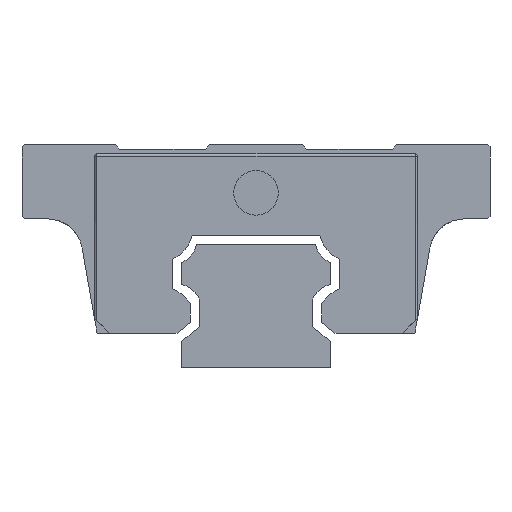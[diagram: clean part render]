
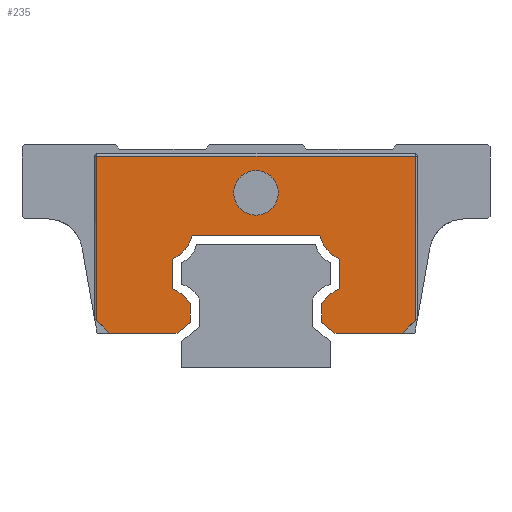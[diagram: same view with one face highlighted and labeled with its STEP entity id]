
A CAD part, left-side view. The second image highlights one B-rep face of the part: STEP entity #235.
In plain terms, the highlighted planar face has unit normal (-1, 0, 0).
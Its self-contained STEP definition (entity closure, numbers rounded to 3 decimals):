
#47=FACE_BOUND('',#560,.T.);
#48=FACE_BOUND('',#561,.T.);
#235=ADVANCED_FACE('',(#47,#48),#373,.T.);
#373=PLANE('',#2506);
#560=EDGE_LOOP('',(#1261));
#561=EDGE_LOOP('',(#1262,#1263,#1264,#1265,#1266,#1267,#1268,#1269,#1270,
#1271,#1272,#1273,#1274,#1275,#1276,#1277,#1278,#1279));
#752=LINE('',#3486,#960);
#758=LINE('',#3502,#966);
#761=LINE('',#3508,#969);
#768=LINE('',#3522,#976);
#769=LINE('',#3532,#977);
#782=LINE('',#3559,#990);
#791=LINE('',#3579,#999);
#794=LINE('',#3585,#1002);
#799=LINE('',#3594,#1007);
#807=LINE('',#3611,#1015);
#814=LINE('',#3626,#1022);
#815=LINE('',#3630,#1023);
#816=LINE('',#3632,#1024);
#817=LINE('',#3634,#1025);
#960=VECTOR('',#2759,1.);
#966=VECTOR('',#2773,1.);
#969=VECTOR('',#2778,1.);
#976=VECTOR('',#2787,1.);
#977=VECTOR('',#2792,1.);
#990=VECTOR('',#2813,1.);
#999=VECTOR('',#2826,1.);
#1002=VECTOR('',#2831,1.);
#1007=VECTOR('',#2838,1.);
#1015=VECTOR('',#2852,1.);
#1022=VECTOR('',#2865,1.);
#1023=VECTOR('',#2870,1.);
#1024=VECTOR('',#2871,1.);
#1025=VECTOR('',#2872,1.);
#1261=ORIENTED_EDGE('',*,*,#2120,.F.);
#1262=ORIENTED_EDGE('',*,*,#2071,.T.);
#1263=ORIENTED_EDGE('',*,*,#2121,.T.);
#1264=ORIENTED_EDGE('',*,*,#2122,.T.);
#1265=ORIENTED_EDGE('',*,*,#2123,.T.);
#1266=ORIENTED_EDGE('',*,*,#2084,.T.);
#1267=ORIENTED_EDGE('',*,*,#2094,.T.);
#1268=ORIENTED_EDGE('',*,*,#2097,.T.);
#1269=ORIENTED_EDGE('',*,*,#2102,.T.);
#1270=ORIENTED_EDGE('',*,*,#2104,.T.);
#1271=ORIENTED_EDGE('',*,*,#2111,.T.);
#1272=ORIENTED_EDGE('',*,*,#2113,.T.);
#1273=ORIENTED_EDGE('',*,*,#2119,.T.);
#1274=ORIENTED_EDGE('',*,*,#2042,.T.);
#1275=ORIENTED_EDGE('',*,*,#2050,.T.);
#1276=ORIENTED_EDGE('',*,*,#2053,.T.);
#1277=ORIENTED_EDGE('',*,*,#2058,.T.);
#1278=ORIENTED_EDGE('',*,*,#2061,.T.);
#1279=ORIENTED_EDGE('',*,*,#2068,.T.);
#1819=VERTEX_POINT('',#3469);
#1820=VERTEX_POINT('',#3471);
#1826=VERTEX_POINT('',#3485);
#1828=VERTEX_POINT('',#3491);
#1832=VERTEX_POINT('',#3501);
#1834=VERTEX_POINT('',#3507);
#1840=VERTEX_POINT('',#3521);
#1843=VERTEX_POINT('',#3531);
#1854=VERTEX_POINT('',#3560);
#1855=VERTEX_POINT('',#3561);
#1862=VERTEX_POINT('',#3578);
#1864=VERTEX_POINT('',#3584);
#1867=VERTEX_POINT('',#3593);
#1868=VERTEX_POINT('',#3597);
#1873=VERTEX_POINT('',#3610);
#1874=VERTEX_POINT('',#3614);
#1879=VERTEX_POINT('',#3629);
#1880=VERTEX_POINT('',#3631);
#1881=VERTEX_POINT('',#3633);
#2042=EDGE_CURVE('',#1820,#1819,#2366,.T.);
#2050=EDGE_CURVE('',#1819,#1826,#752,.T.);
#2053=EDGE_CURVE('',#1826,#1828,#2368,.T.);
#2058=EDGE_CURVE('',#1828,#1832,#758,.T.);
#2061=EDGE_CURVE('',#1832,#1834,#761,.T.);
#2068=EDGE_CURVE('',#1834,#1840,#768,.T.);
#2071=EDGE_CURVE('',#1840,#1843,#769,.T.);
#2084=EDGE_CURVE('',#1854,#1855,#782,.T.);
#2094=EDGE_CURVE('',#1855,#1862,#791,.T.);
#2097=EDGE_CURVE('',#1862,#1864,#794,.T.);
#2102=EDGE_CURVE('',#1864,#1867,#799,.T.);
#2104=EDGE_CURVE('',#1867,#1868,#2369,.T.);
#2111=EDGE_CURVE('',#1868,#1873,#807,.T.);
#2113=EDGE_CURVE('',#1873,#1874,#2370,.T.);
#2119=EDGE_CURVE('',#1874,#1820,#814,.T.);
#2120=EDGE_CURVE('',#1879,#1879,#2371,.T.);
#2121=EDGE_CURVE('',#1843,#1880,#815,.T.);
#2122=EDGE_CURVE('',#1880,#1881,#816,.T.);
#2123=EDGE_CURVE('',#1881,#1854,#817,.T.);
#2366=CIRCLE('',#2480,4.75);
#2368=CIRCLE('',#2484,4.75);
#2369=CIRCLE('',#2499,4.75);
#2370=CIRCLE('',#2502,4.75);
#2371=CIRCLE('',#2505,3.);
#2480=AXIS2_PLACEMENT_3D('',#3470,#2748,#2749);
#2484=AXIS2_PLACEMENT_3D('',#3492,#2765,#2766);
#2499=AXIS2_PLACEMENT_3D('',#3598,#2842,#2843);
#2502=AXIS2_PLACEMENT_3D('',#3615,#2856,#2857);
#2505=AXIS2_PLACEMENT_3D('',#3628,#2868,#2869);
#2506=AXIS2_PLACEMENT_3D('',#3635,#2873,#2874);
#2748=DIRECTION('',(-1.,0.,0.));
#2749=DIRECTION('',(0.,1.,0.));
#2759=DIRECTION('',(0.,0.,-1.));
#2765=DIRECTION('',(-1.,0.,0.));
#2766=DIRECTION('',(0.,1.,0.));
#2773=DIRECTION('',(0.,0.,-1.));
#2778=DIRECTION('',(0.,-0.766,-0.643));
#2787=DIRECTION('',(0.,-1.,0.));
#2792=DIRECTION('',(0.,-0.707,0.707));
#2813=DIRECTION('',(0.,-0.707,-0.707));
#2826=DIRECTION('',(0.,-1.,0.));
#2831=DIRECTION('',(0.,-0.766,0.643));
#2838=DIRECTION('',(0.,0.,1.));
#2842=DIRECTION('',(-1.,0.,0.));
#2843=DIRECTION('',(0.,-1.,0.));
#2852=DIRECTION('',(0.,0.,1.));
#2856=DIRECTION('',(-1.,0.,0.));
#2857=DIRECTION('',(0.,-1.,0.));
#2865=DIRECTION('',(0.,-1.,0.));
#2868=DIRECTION('',(-1.,0.,0.));
#2869=DIRECTION('',(0.,1.,0.));
#2870=DIRECTION('',(0.,0.,1.));
#2871=DIRECTION('',(0.,1.,0.));
#2872=DIRECTION('',(0.,0.,-1.));
#2873=DIRECTION('',(-1.,0.,0.));
#2874=DIRECTION('',(0.,0.,1.));
#3469=CARTESIAN_POINT('',(-37.8,-11.25,14.571));
#3470=CARTESIAN_POINT('',(-37.8,-13.19,18.907));
#3471=CARTESIAN_POINT('',(-37.8,-8.583,17.75));
#3485=CARTESIAN_POINT('',(-37.8,-11.25,10.584));
#3486=CARTESIAN_POINT('',(-37.8,-11.25,14.571));
#3491=CARTESIAN_POINT('',(-37.8,-8.866,8.584));
#3492=CARTESIAN_POINT('',(-37.8,-12.943,6.146));
#3501=CARTESIAN_POINT('',(-37.8,-8.866,6.083));
#3502=CARTESIAN_POINT('',(-37.8,-8.866,8.584));
#3507=CARTESIAN_POINT('',(-37.8,-10.634,4.6));
#3508=CARTESIAN_POINT('',(-37.8,-8.866,6.083));
#3521=CARTESIAN_POINT('',(-37.8,-19.731,4.6));
#3522=CARTESIAN_POINT('',(-37.8,-10.634,4.6));
#3531=CARTESIAN_POINT('',(-37.8,-21.421,6.291));
#3532=CARTESIAN_POINT('',(-37.8,-19.731,4.6));
#3559=CARTESIAN_POINT('',(-37.8,21.736,6.6));
#3560=CARTESIAN_POINT('',(-37.8,21.421,6.285));
#3561=CARTESIAN_POINT('',(-37.8,19.736,4.6));
#3578=CARTESIAN_POINT('',(-37.8,10.634,4.6));
#3579=CARTESIAN_POINT('',(-37.8,19.736,4.6));
#3584=CARTESIAN_POINT('',(-37.8,8.866,6.083));
#3585=CARTESIAN_POINT('',(-37.8,10.634,4.6));
#3593=CARTESIAN_POINT('',(-37.8,8.866,8.584));
#3594=CARTESIAN_POINT('',(-37.8,8.866,6.083));
#3597=CARTESIAN_POINT('',(-37.8,11.25,10.584));
#3598=CARTESIAN_POINT('',(-37.8,12.943,6.146));
#3610=CARTESIAN_POINT('',(-37.8,11.25,14.571));
#3611=CARTESIAN_POINT('',(-37.8,11.25,10.584));
#3614=CARTESIAN_POINT('',(-37.8,8.583,17.75));
#3615=CARTESIAN_POINT('',(-37.8,13.19,18.907));
#3626=CARTESIAN_POINT('',(-37.8,8.583,17.75));
#3628=CARTESIAN_POINT('',(-37.8,0.,23.5));
#3629=CARTESIAN_POINT('',(-37.8,3.,23.5));
#3630=CARTESIAN_POINT('',(-37.8,-21.421,28.75));
#3631=CARTESIAN_POINT('',(-37.8,-21.421,28.435));
#3632=CARTESIAN_POINT('',(-37.8,21.736,28.435));
#3633=CARTESIAN_POINT('',(-37.8,21.421,28.435));
#3634=CARTESIAN_POINT('',(-37.8,21.421,6.6));
#3635=CARTESIAN_POINT('',(-37.8,-13.19,18.907));
